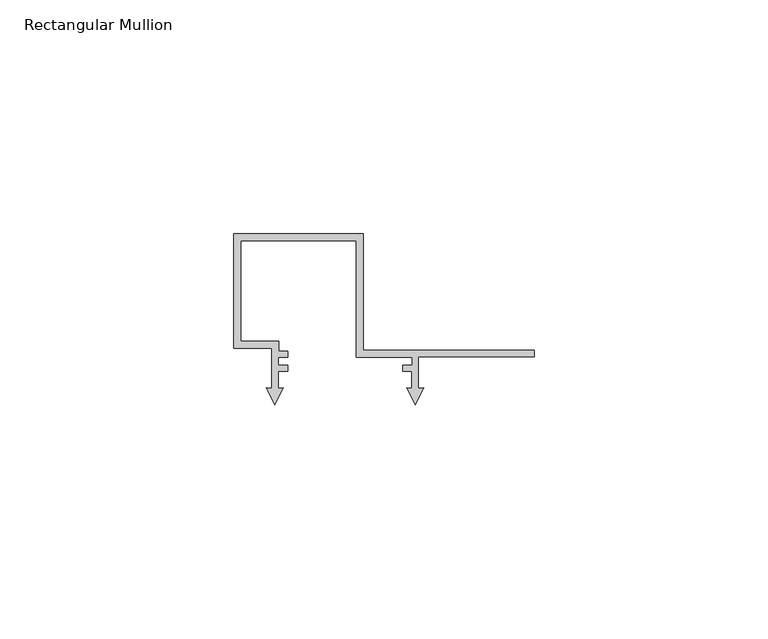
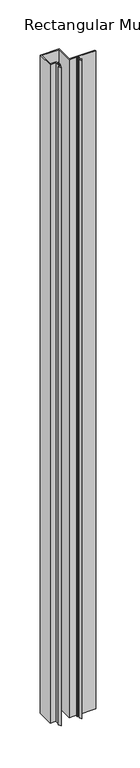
"""IFC4 building model written with IfcOpenShell, lengths in millimetres: member geometry, Rectangular Mullion : Renson_Linarte_LA-B25-01."""

import ifcopenshell
import ifcopenshell.guid

model = None  # the IFC model being written
_history = None  # IfcOwnerHistory: only IFC2X3 demands one
_inside = {}  # id of a spatial element -> (the spatial element, [elements in it])
_under = {}  # id of a project, library or spatial element -> (it, [spatial elements below it])
_declared = {}  # id of a project -> (the project, [libraries it declares])
_typed = {}  # id of a type object -> (the type object, [elements of that type])
_made_of = {}  # id of a material, layer set ... -> (it, [elements and type objects made of it])


def new_model(schema):
    """Start an empty IFC model of exactly this schema.

    Asked for "IFC4X3", IfcOpenShell would pick the latest addendum, in which some entities
    have other attributes; the version numbers below select the first issue.
    IFC2X3 requires an IfcOwnerHistory on every rooted entity: one is made here for all.
    """
    global model, _history
    if schema == "IFC4X3":
        model = ifcopenshell.file(schema_version=(4, 3, 0, 0))
    else:
        model = ifcopenshell.file(schema=schema)
    _inside.clear()
    _under.clear()
    _declared.clear()
    _typed.clear()
    _made_of.clear()
    _history = None
    if model.schema == "IFC2X3":
        org = make("IfcOrganization", Name="unknown")
        user = make(
            "IfcPersonAndOrganization",
            ThePerson=make("IfcPerson", FamilyName="unknown"),
            TheOrganization=org,
        )
        app = make(
            "IfcApplication",
            ApplicationDeveloper=org,
            Version="unknown",
            ApplicationFullName="unknown",
            ApplicationIdentifier="unknown",
        )
        _history = make(
            "IfcOwnerHistory",
            OwningUser=user,
            OwningApplication=app,
            ChangeAction="ADDED",
            CreationDate=0,
        )
    return model


def make(cls, **values):
    """One entity of the class cls with the attributes given. An attribute that is None is left unset."""
    return model.create_entity(
        cls, **{name: value for name, value in values.items() if value is not None}
    )


def rooted(cls, **values):
    """An entity with a GlobalId (a new one), such as an element, a storey or a relation."""
    return make(cls, GlobalId=ifcopenshell.guid.new(), OwnerHistory=_history, **values)


def si_unit(unit_type, name, prefix=None):
    """IfcSIUnit, for example si_unit("LENGTHUNIT", "METRE", prefix="MILLI")."""
    return make("IfcSIUnit", UnitType=unit_type, Prefix=prefix, Name=name)


def assignment(units):
    """IfcUnitAssignment: the units of a project."""
    return None if units is None else make("IfcUnitAssignment", Units=units)


def point(xyz):
    """IfcCartesianPoint."""
    return None if xyz is None else make("IfcCartesianPoint", Coordinates=xyz)


def direction(xyz):
    """IfcDirection."""
    return None if xyz is None else make("IfcDirection", DirectionRatios=xyz)


def frame(location, z_axis=None, x_axis=None):
    """IfcAxis2Placement3D, a coordinate frame: its origin and axes. An axis left out is left unset."""
    return make(
        "IfcAxis2Placement3D",
        Location=point(location),
        Axis=direction(z_axis),
        RefDirection=direction(x_axis),
    )


def origin():
    """The frame at (0, 0, 0) with its axes left unset."""
    return frame((0.0, 0.0, 0.0))


def place(relative_to, where):
    """IfcLocalPlacement: puts the frame where relative to a parent placement (None: the world)."""
    return make(
        "IfcLocalPlacement", PlacementRelTo=relative_to, RelativePlacement=where
    )


def context(
    kind, dimensions, precision=None, world=None, true_north=None, identifier=None
):
    """IfcGeometricRepresentationContext, for example the 3D "Model" context."""
    return make(
        "IfcGeometricRepresentationContext",
        ContextIdentifier=identifier,
        ContextType=kind,
        CoordinateSpaceDimension=dimensions,
        Precision=precision,
        WorldCoordinateSystem=world,
        TrueNorth=true_north,
    )


def project(units=None, contexts=None):
    """IfcProject with its units and contexts."""
    return rooted(
        "IfcProject",
        Name="project",
        RepresentationContexts=contexts,
        UnitsInContext=assignment(units),
    )


def spatial(cls, under=None, at=None, **own):
    """A site, building, storey or space (cls), placed at a placement, below another one or the project."""
    s = rooted(cls, ObjectPlacement=at, **own)
    if under is not None:
        _under.setdefault(under.id(), (under, []))[1].append(s)
    return s


def polyline(points):
    """IfcPolyline through the points."""
    return make("IfcPolyline", Points=[point(p) for p in points])


def outline(outer, holes=None, kind="AREA"):
    """IfcArbitraryClosedProfileDef: a profile drawn as a closed curve; with holes, ...WithVoids."""
    if holes is None:
        return make("IfcArbitraryClosedProfileDef", ProfileType=kind, OuterCurve=outer)
    return make(
        "IfcArbitraryProfileDefWithVoids",
        ProfileType=kind,
        OuterCurve=outer,
        InnerCurves=holes,
    )


def extrude(swept, where, along, depth):
    """IfcExtrudedAreaSolid: the profile swept, set in the frame where, extruded along a direction by depth."""
    return make(
        "IfcExtrudedAreaSolid",
        SweptArea=swept,
        Position=where,
        ExtrudedDirection=direction(along),
        Depth=depth,
    )


def shape(context_of_items, identifier, shape_type, items):
    """IfcShapeRepresentation: the items that make up one representation, for example the "Body"."""
    return make(
        "IfcShapeRepresentation",
        ContextOfItems=context_of_items,
        RepresentationIdentifier=identifier,
        RepresentationType=shape_type,
        Items=items,
    )


def source(mapping_origin, context_of_items, identifier, shape_type, items):
    """IfcRepresentationMap: a shape defined once, which mapped items show again and again."""
    return make(
        "IfcRepresentationMap",
        MappingOrigin=mapping_origin,
        MappedRepresentation=shape(context_of_items, identifier, shape_type, items),
    )


def transform(
    local_origin,
    x_axis=None,
    y_axis=None,
    z_axis=None,
    scale=None,
    scale2=None,
    scale3=None,
    uniform=True,
):
    """IfcCartesianTransformationOperator3D, or its non-uniform kind. x_axis, y_axis, z_axis: its Axis1, 2, 3."""
    if uniform:
        return make(
            "IfcCartesianTransformationOperator3D",
            Axis1=direction(x_axis),
            Axis2=direction(y_axis),
            LocalOrigin=point(local_origin),
            Scale=scale,
            Axis3=direction(z_axis),
        )
    return make(
        "IfcCartesianTransformationOperator3DnonUniform",
        Axis1=direction(x_axis),
        Axis2=direction(y_axis),
        LocalOrigin=point(local_origin),
        Scale=scale,
        Axis3=direction(z_axis),
        Scale2=scale2,
        Scale3=scale3,
    )


def mapped(mapping_source, mapping_target):
    """IfcMappedItem: shows the shape of a source again, moved by a transform."""
    return make(
        "IfcMappedItem", MappingSource=mapping_source, MappingTarget=mapping_target
    )


def made_of(thing, what):
    """Note that an element or type object is made of a material, layer set ...; save() writes the relation."""
    if what is not None:
        _made_of.setdefault(what.id(), (what, []))[1].append(thing)
    return thing


def element(
    cls,
    number,
    at=None,
    inside=None,
    cuts=None,
    type_object=None,
    material=None,
    context=None,
    identifier="Body",
    shape_type=None,
    held_by="IfcProductDefinitionShape",
    body=None,
    shapes=None,
    **own,
):
    """One element of the class cls, such as IfcWall. Its Tag is "e" and its number.

    at: its placement. inside: the storey or other place that contains it. cuts: it is an
    opening in that element (IfcRelVoidsElement). A single representation is given by context,
    identifier, shape_type and body (its items); several are given by shapes. held_by: the class
    of the entity that holds the representations. save() writes the other relations.
    """
    e = rooted(cls, Tag="e%d" % number, ObjectPlacement=at, **own)
    if body is not None:
        shapes = [shape(context, identifier, shape_type, body)]
    if shapes is not None:
        e.Representation = make(held_by, Representations=shapes)
    if inside is not None:
        _inside.setdefault(inside.id(), (inside, []))[1].append(e)
    if cuts is not None:
        rooted(
            "IfcRelVoidsElement", RelatingBuildingElement=cuts, RelatedOpeningElement=e
        )
    if type_object is not None:
        _typed.setdefault(type_object.id(), (type_object, []))[1].append(e)
    return made_of(e, material)


def aggregate(whole, parts):
    """IfcRelAggregates: a whole, such as a stair, and the parts it consists of."""
    return rooted("IfcRelAggregates", RelatingObject=whole, RelatedObjects=parts)


def save(model, path):
    """Write the relations noted so far, then the file.

    IfcRelAggregates (storeys below a building ...), IfcRelContainedInSpatialStructure (elements
    in a storey), IfcRelDefinesByType, IfcRelAssociatesMaterial and IfcRelDeclares: one each for
    every whole, place, type object, material and project.
    """
    for whole, parts in _under.values():
        aggregate(whole, parts)
    for where, things in _inside.values():
        rooted(
            "IfcRelContainedInSpatialStructure",
            RelatedElements=things,
            RelatingStructure=where,
        )
    for kind, things in _typed.values():
        rooted("IfcRelDefinesByType", RelatedObjects=things, RelatingType=kind)
    for what, things in _made_of.values():
        rooted("IfcRelAssociatesMaterial", RelatedObjects=things, RelatingMaterial=what)
    for by, libraries in _declared.values():
        rooted("IfcRelDeclares", RelatingContext=by, RelatedDefinitions=libraries)
    model.write(path)


def rectangular_mullion_76c2134e(model_context):
    return source(origin(), model_context, "Body", "SweptSolid", [
        extrude(outline(polyline([(-36.6500002, 61.6), (-36.6500002, 36.7004291), (0.0, 36.7004291), (0.0, 35.2056679), (-24.8, 35.2056679), (-24.8, 28.5038207), (-23.6842647, 28.6014348), (-25.5000014, 25.0378474), (-27.315738, 28.6014348), (-26.2000002, 28.5038204), (-26.2000002, 32.1999997), (-28.1922643, 32.1999997), (-28.1922643, 33.4008281), (-26.1000012, 33.4008281), (-26.1000012, 35.1999997), (-38.1500002, 35.1999997), (-38.1500002, 60.0999997), (-62.8500002, 60.0999997), (-62.8500002, 38.5997951), (-54.6997126, 38.5997951), (-54.6997126, 36.4015214), (-52.8211027, 36.4015214), (-52.8211027, 35.1999954), (-54.8, 35.1999954), (-54.8, 33.4004386), (-52.8216175, 33.4004386), (-52.8216175, 32.198351), (-54.8091807, 32.198351), (-54.8091807, 28.5038206), (-53.6934442, 28.6014348), (-55.5091808, 25.0378474), (-57.3249174, 28.6014348), (-56.2091809, 28.5038205), (-56.2091809, 37.0995654), (-64.3500002, 37.0995654), (-64.3500002, 61.6), (-36.6500002, 61.6)])), frame((0.0, 0.0, -1000.0), z_axis=(0.0, 0.0, 1.0), x_axis=(1.0, 0.0, 0.0)), (0.0, 0.0, 1.0), 1000.0),
    ])


if __name__ == "__main__":
    model = new_model("IFC4")
    model_context = context("Model", 3, world=origin())
    ifc_project = project(units=[si_unit("LENGTHUNIT", "METRE", prefix="MILLI")], contexts=[model_context])
    site = spatial("IfcSite", under=ifc_project)
    building = spatial("IfcBuilding", under=site)
    placement = place(None, origin())
    rectangular_mullion_shape = rectangular_mullion_76c2134e(model_context)
    element("IfcMember", 1, ObjectType="Rectangular Mullion : Renson_Linarte_LA-B25-01", at=placement, inside=building, context=model_context, shape_type="MappedRepresentation", body=[
        mapped(rectangular_mullion_shape, transform((0.0, 0.0, 0.0), x_axis=(1.0, 0.0, 0.0), y_axis=(0.0, 1.0, 0.0), z_axis=(0.0, 0.0, 1.0))),
    ])
    save(model, "model.ifc")
